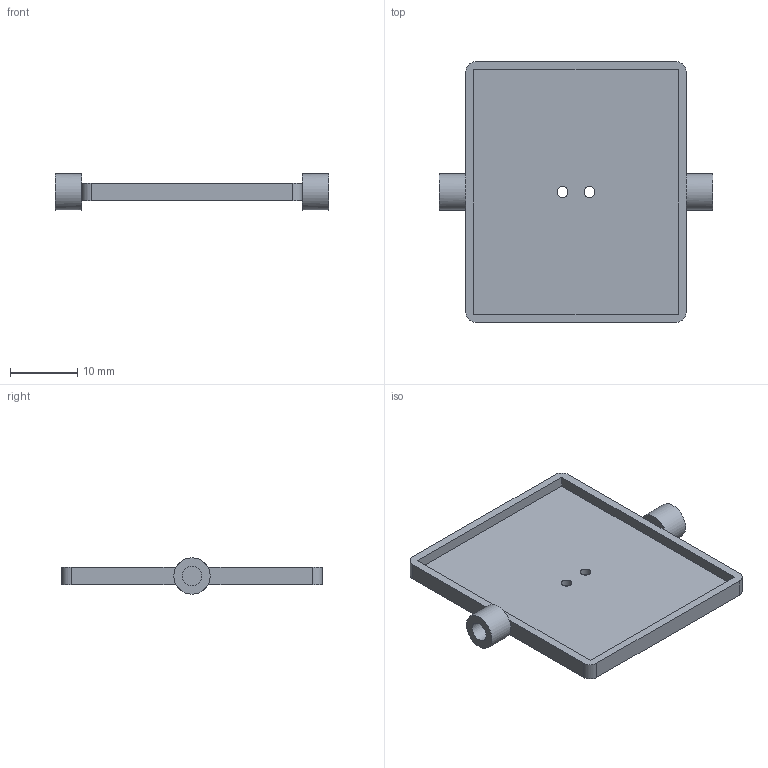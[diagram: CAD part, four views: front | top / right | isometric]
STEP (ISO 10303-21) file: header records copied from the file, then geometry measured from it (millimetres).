
FILE_DESCRIPTION(('Open CASCADE Model'),'2;1');
FILE_NAME('Open CASCADE Shape Model','2026-09-30T23:04:27',('Author'),( 'Open CASCADE'),'Open CASCADE STEP processor 8.0','Open CASCADE 8.0' ,'Unknown');
FILE_SCHEMA(('AP242_MANAGED_MODEL_BASED_3D_ENGINEERING_MIM_LF {1 0 10303 442 1 1 4 }' ));
Length unit declared in the file: millimetre
Products named in the file (1): Open CASCADE STEP translator 8.0 7
Bounding box: 40.8 x 38.8 x 5.4 mm (x, y, z)
Volume: 1670.9 mm3; surface area: 3355.5 mm2
Topology: 1 solids, 1 shells, 31 faces, 70 edges, 44 vertices
Faces by surface type: plane 21, cylinder 10
Full cylindrical faces by diameter (mm): 1.6 x2, 2.9 x2, 5.4 x2
Entity records: 1786 total; most frequent: CARTESIAN_POINT 296, DIRECTION 292, LINE 144, VECTOR 144, ORIENTED_EDGE 140, PCURVE 140, DEFINITIONAL_REPRESENTATION 140, EDGE_CURVE 70
